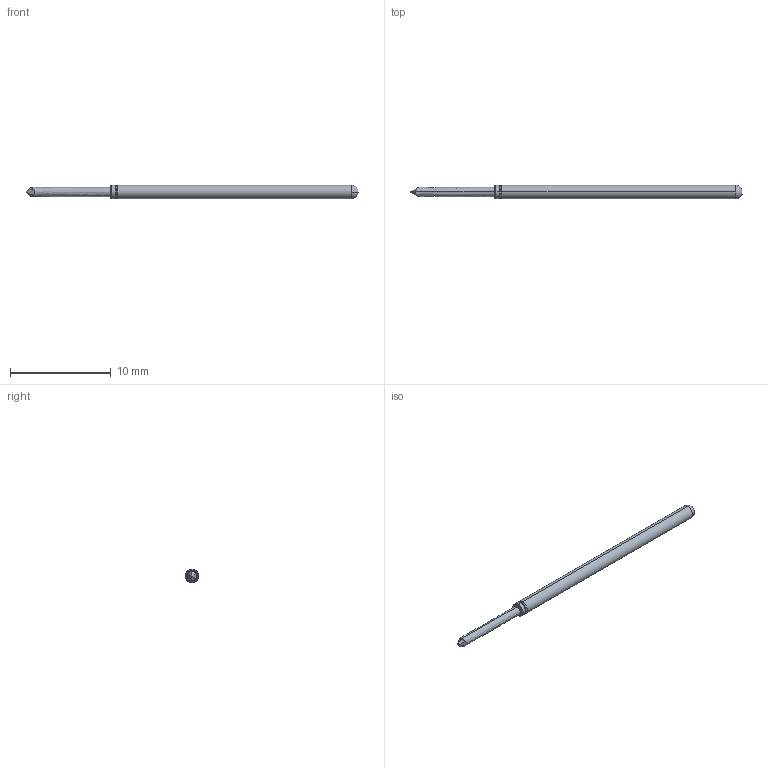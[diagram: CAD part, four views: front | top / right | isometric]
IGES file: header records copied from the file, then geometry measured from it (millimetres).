
Start section: SolidWorks IGES file using analytic representation for surfaces
Global section: file name: Z:\probe solid model mockups\Solidworks models\POGO-25 IGS files\POGO-25I8.IGS; native system: SolidWorks 2006 by SolidWorks Corporation; preprocessor: SolidWorks 2006 by SolidWorks Corporation; author: tsakatani; date: 071214.092509; units: inch
Bounding box: 33.02 x 1.37 x 1.37 mm (x, y, z)
Surface area: 130.6 mm2 (no closed solid volume)
Topology: 0 solids, 0 shells, 24 faces, 170 edges, 170 vertices
Faces by surface type: bspline 12, revolution 12
